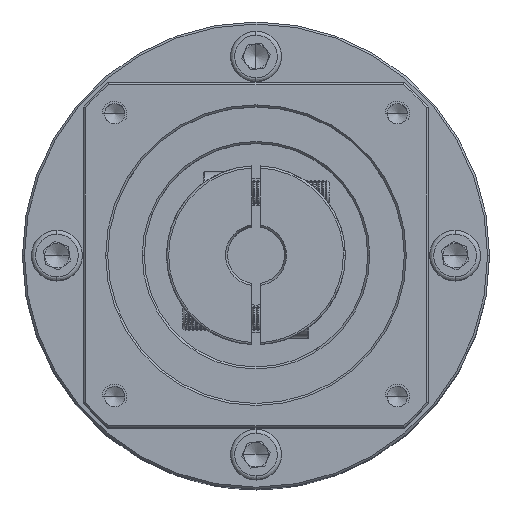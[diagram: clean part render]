
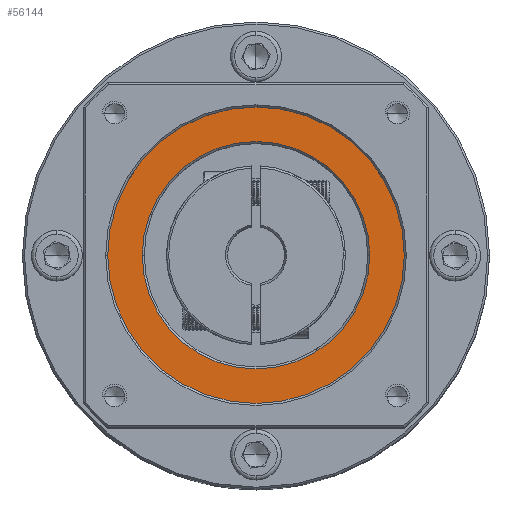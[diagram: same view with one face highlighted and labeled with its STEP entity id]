
A CAD part, top view. The second image highlights one B-rep face of the part: STEP entity #56144.
In plain terms, the highlighted planar face has unit normal (0, 0, 1).
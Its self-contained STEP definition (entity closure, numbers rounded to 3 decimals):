
#1703 = EDGE_CURVE ( 'NONE', #120481, #61742, #120073, .T. ) ;
#4929 = DIRECTION ( 'NONE',  ( 1., 0., 0. ) ) ;
#5051 = CARTESIAN_POINT ( 'NONE',  ( 88.613, -44.936, 14.186 ) ) ;
#12556 = CIRCLE ( 'NONE', #107192, 28. ) ;
#13890 = DIRECTION ( 'NONE',  ( 0., 0., -1. ) ) ;
#17760 = CARTESIAN_POINT ( 'NONE',  ( 60.613, -44.936, 14.186 ) ) ;
#20607 = DIRECTION ( 'NONE',  ( 1., 0., 0. ) ) ;
#25649 = AXIS2_PLACEMENT_3D ( 'NONE', #70860, #78480, #20607 ) ;
#29897 = AXIS2_PLACEMENT_3D ( 'NONE', #5051, #13890, #81477 ) ;
#41101 = EDGE_CURVE ( 'NONE', #61742, #120481, #91722, .T. ) ;
#42467 = DIRECTION ( 'NONE',  ( 0., 0., 1. ) ) ;
#50462 = VERTEX_POINT ( 'NONE', #118676 ) ;
#51996 = FACE_BOUND ( 'NONE', #118567, .T. ) ;
#52065 = CIRCLE ( 'NONE', #29897, 28. ) ;
#52397 = ORIENTED_EDGE ( 'NONE', *, *, #41101, .T. ) ;
#56144 = ADVANCED_FACE ( 'NONE', ( #117260, #51996 ), #99516, .T. ) ;
#58421 = CARTESIAN_POINT ( 'NONE',  ( 52.113, -44.936, 14.186 ) ) ;
#61249 = EDGE_CURVE ( 'NONE', #97298, #50462, #52065, .T. ) ;
#61742 = VERTEX_POINT ( 'NONE', #58421 ) ;
#62792 = CARTESIAN_POINT ( 'NONE',  ( 88.613, -44.936, 14.186 ) ) ;
#64179 = ORIENTED_EDGE ( 'NONE', *, *, #89263, .T. ) ;
#66464 = AXIS2_PLACEMENT_3D ( 'NONE', #62792, #100423, #4929 ) ;
#70860 = CARTESIAN_POINT ( 'NONE',  ( 88.613, -44.936, 14.186 ) ) ;
#72225 = ORIENTED_EDGE ( 'NONE', *, *, #61249, .T. ) ;
#76709 = ORIENTED_EDGE ( 'NONE', *, *, #1703, .T. ) ;
#78480 = DIRECTION ( 'NONE',  ( 0., 0., 1. ) ) ;
#81477 = DIRECTION ( 'NONE',  ( 1., 0., 0. ) ) ;
#81927 = DIRECTION ( 'NONE',  ( 0., 0., -1. ) ) ;
#89263 = EDGE_CURVE ( 'NONE', #50462, #97298, #12556, .T. ) ;
#91473 = CARTESIAN_POINT ( 'NONE',  ( 88.613, -44.936, 14.186 ) ) ;
#91667 = CARTESIAN_POINT ( 'NONE',  ( 88.613, -44.936, 14.186 ) ) ;
#91722 = CIRCLE ( 'NONE', #25649, 36.5 ) ;
#94405 = EDGE_LOOP ( 'NONE', ( #76709, #52397 ) ) ;
#97298 = VERTEX_POINT ( 'NONE', #17760 ) ;
#99516 = PLANE ( 'NONE',  #103895 ) ;
#100423 = DIRECTION ( 'NONE',  ( 0., 0., 1. ) ) ;
#103895 = AXIS2_PLACEMENT_3D ( 'NONE', #91473, #42467, #110149 ) ;
#105179 = CARTESIAN_POINT ( 'NONE',  ( 125.113, -44.936, 14.186 ) ) ;
#107192 = AXIS2_PLACEMENT_3D ( 'NONE', #91667, #81927, #120958 ) ;
#110149 = DIRECTION ( 'NONE',  ( 1., 0., 0. ) ) ;
#117260 = FACE_OUTER_BOUND ( 'NONE', #94405, .T. ) ;
#118567 = EDGE_LOOP ( 'NONE', ( #64179, #72225 ) ) ;
#118676 = CARTESIAN_POINT ( 'NONE',  ( 116.613, -44.936, 14.186 ) ) ;
#120073 = CIRCLE ( 'NONE', #66464, 36.5 ) ;
#120481 = VERTEX_POINT ( 'NONE', #105179 ) ;
#120958 = DIRECTION ( 'NONE',  ( 1., 0., 0. ) ) ;
